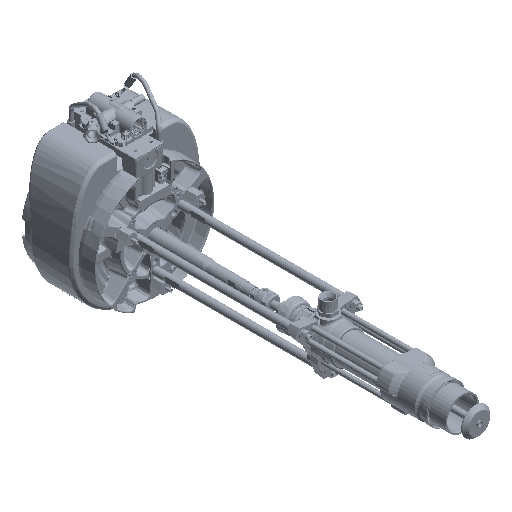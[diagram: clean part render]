
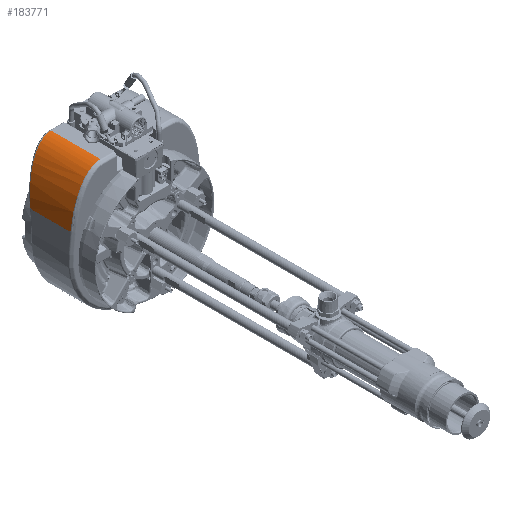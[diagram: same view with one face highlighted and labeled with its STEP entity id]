
A CAD part, isometric view. The second image highlights one B-rep face of the part: STEP entity #183771.
In plain terms, the highlighted face is a extrusion surface.
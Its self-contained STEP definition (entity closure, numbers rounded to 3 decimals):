
#164172=DIRECTION('',(0.,-1.,0.));
#164173=VECTOR('',#164172,5.39);
#164174=CARTESIAN_POINT('',(-8.651,8.208,
3.434));
#164175=LINE('',#164174,#164173);
#164188=DIRECTION('',(0.,-1.,0.));
#164189=VECTOR('',#164188,6.686);
#164190=CARTESIAN_POINT('',(-4.6,9.504,
9.94));
#164191=LINE('',#164190,#164189);
#167416=CARTESIAN_POINT('',(-8.651,8.208,
3.434));
#167417=CARTESIAN_POINT('',(-8.651,8.209,
3.436));
#167418=CARTESIAN_POINT('',(-8.65,8.21,
3.441));
#167419=CARTESIAN_POINT('',(-8.65,8.211,
3.448));
#167420=CARTESIAN_POINT('',(-8.649,8.212,
3.453));
#167421=CARTESIAN_POINT('',(-8.649,8.213,
3.455));
#167423=CARTESIAN_POINT('',(-4.6,9.504,
9.94));
#167424=CARTESIAN_POINT('',(-4.672,9.504,
9.94));
#167425=CARTESIAN_POINT('',(-4.818,9.502,
9.932));
#167426=CARTESIAN_POINT('',(-5.034,9.497,
9.9));
#167427=CARTESIAN_POINT('',(-5.281,9.486,
9.835));
#167428=CARTESIAN_POINT('',(-5.539,9.468,
9.735));
#167429=CARTESIAN_POINT('',(-5.81,9.442,
9.593));
#167430=CARTESIAN_POINT('',(-6.093,9.407,
9.403));
#167431=CARTESIAN_POINT('',(-6.38,9.361,
9.162));
#167432=CARTESIAN_POINT('',(-6.669,9.305,
8.866));
#167433=CARTESIAN_POINT('',(-6.959,9.235,
8.508));
#167434=CARTESIAN_POINT('',(-7.242,9.152,
8.089));
#167435=CARTESIAN_POINT('',(-7.52,9.054,
7.596));
#167436=CARTESIAN_POINT('',(-7.783,8.941,
7.035));
#167437=CARTESIAN_POINT('',(-8.037,8.808,
6.375));
#167438=CARTESIAN_POINT('',(-8.256,8.662,
5.655));
#167439=CARTESIAN_POINT('',(-8.413,8.528,
4.998));
#167440=CARTESIAN_POINT('',(-8.521,8.412,
4.428));
#167441=CARTESIAN_POINT('',(-8.597,8.308,
3.921));
#167442=CARTESIAN_POINT('',(-8.634,8.243,
3.605));
#167443=CARTESIAN_POINT('',(-8.649,8.213,
3.455));
#167445=CARTESIAN_POINT('',(-8.651,2.819,
3.434));
#167446=CARTESIAN_POINT('',(-8.643,2.819,
3.518));
#167447=CARTESIAN_POINT('',(-8.624,2.819,
3.692));
#167448=CARTESIAN_POINT('',(-8.591,2.819,
3.95));
#167449=CARTESIAN_POINT('',(-8.549,2.819,
4.242));
#167450=CARTESIAN_POINT('',(-8.496,2.819,
4.558));
#167451=CARTESIAN_POINT('',(-8.429,2.818,
4.905));
#167452=CARTESIAN_POINT('',(-8.345,2.818,
5.283));
#167453=CARTESIAN_POINT('',(-8.24,2.819,
5.696));
#167454=CARTESIAN_POINT('',(-8.108,2.819,
6.144));
#167455=CARTESIAN_POINT('',(-7.94,2.819,
6.634));
#167456=CARTESIAN_POINT('',(-7.722,2.819,
7.172));
#167457=CARTESIAN_POINT('',(-7.469,2.819,
7.693));
#167458=CARTESIAN_POINT('',(-7.208,2.819,
8.142));
#167459=CARTESIAN_POINT('',(-6.942,2.819,
8.529));
#167460=CARTESIAN_POINT('',(-6.676,2.819,
8.856));
#167461=CARTESIAN_POINT('',(-6.409,2.819,
9.134));
#167462=CARTESIAN_POINT('',(-6.141,2.819,
9.365));
#167463=CARTESIAN_POINT('',(-5.881,2.819,
9.549));
#167464=CARTESIAN_POINT('',(-5.625,2.819,
9.693));
#167465=CARTESIAN_POINT('',(-5.383,2.819,
9.798));
#167466=CARTESIAN_POINT('',(-5.148,2.818,
9.874));
#167467=CARTESIAN_POINT('',(-4.893,2.819,
9.926));
#167468=CARTESIAN_POINT('',(-4.701,2.819,
9.94));
#167469=CARTESIAN_POINT('',(-4.6,2.819,
9.94));
#177821=CARTESIAN_POINT('',(-8.651,8.208,
3.434));
#177822=VERTEX_POINT('',#177821);
#177825=VERTEX_POINT('',#167421);
#177827=VERTEX_POINT('',#167423);
#177859=VERTEX_POINT('',#167445);
#177860=VERTEX_POINT('',#167469);
#183753=CARTESIAN_POINT('',(-4.6,2.405,1.892));
#183754=DIRECTION('',(0.,-1.,0.));
#183755=DIRECTION('',(0.,0.,-1.));
#183756=AXIS2_PLACEMENT_3D('',#183753,#183754,#183755);
#183758=DIRECTION('',(0.,-1.,0.));
#183759=VECTOR('',#183758,1.);
#183760=SURFACE_OF_LINEAR_EXTRUSION('',#183757,#183759);
#183762=ORIENTED_EDGE('',*,*,#183761,.T.);
#183764=ORIENTED_EDGE('',*,*,#183763,.F.);
#183765=ORIENTED_EDGE('',*,*,#178575,.T.);
#183767=ORIENTED_EDGE('',*,*,#183766,.F.);
#183768=ORIENTED_EDGE('',*,*,#178558,.F.);
#183769=EDGE_LOOP('',(#183762,#183764,#183765,#183767,#183768));
#183770=FACE_OUTER_BOUND('',#183769,.F.);
#183771=ADVANCED_FACE('',(#183770),#183760,.T.);
#167422=B_SPLINE_CURVE_WITH_KNOTS('',3,(#167416,#167417,#167418,#167419,#167420,
#167421),.UNSPECIFIED.,.F.,.F.,(4,1,1,4),(0.,0.333,
0.667,1.),.UNSPECIFIED.);
#167444=B_SPLINE_CURVE_WITH_KNOTS('',3,(#167423,#167424,#167425,#167426,#167427,
#167428,#167429,#167430,#167431,#167432,#167433,#167434,#167435,#167436,#167437,
#167438,#167439,#167440,#167441,#167442,#167443),.UNSPECIFIED.,.F.,.F.,(4,1,1,1,
1,1,1,1,1,1,1,1,1,1,1,1,1,1,4),(0.,0.056,0.111,
0.167,0.222,0.278,0.333,
0.389,0.444,0.5,0.556,0.611,
0.667,0.722,0.778,0.833,
0.889,0.944,1.),.UNSPECIFIED.);
#167470=B_SPLINE_CURVE_WITH_KNOTS('',3,(#167445,#167446,#167447,#167448,#167449,
#167450,#167451,#167452,#167453,#167454,#167455,#167456,#167457,#167458,#167459,
#167460,#167461,#167462,#167463,#167464,#167465,#167466,#167467,#167468,
#167469),.UNSPECIFIED.,.F.,.F.,(4,1,1,1,1,1,1,1,1,1,1,1,1,1,1,1,1,1,1,1,1,1,4),(
0.,0.045,0.091,0.136,0.182,
0.227,0.273,0.318,0.364,
0.409,0.455,0.5,0.545,0.591,
0.636,0.682,0.727,0.773,
0.818,0.864,0.909,0.955,1.),
.UNSPECIFIED.);
#178558=EDGE_CURVE('',#177822,#177859,#164175,.T.);
#178575=EDGE_CURVE('',#177827,#177860,#164191,.T.);
#183757=ELLIPSE('',#183756,8.048,4.128);
#183761=EDGE_CURVE('',#177822,#177825,#167422,.T.);
#183763=EDGE_CURVE('',#177827,#177825,#167444,.T.);
#183766=EDGE_CURVE('',#177859,#177860,#167470,.T.);
